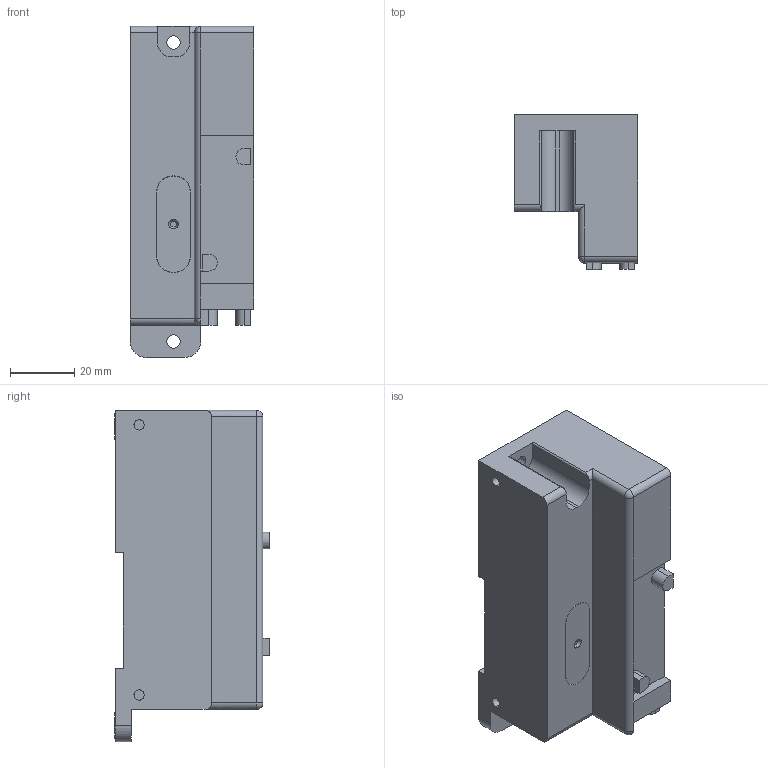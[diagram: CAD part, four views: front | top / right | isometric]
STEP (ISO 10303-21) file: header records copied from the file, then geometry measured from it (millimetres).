
FILE_DESCRIPTION( (''), '2;1');
FILE_NAME ('CVICAD02.18556.F10ZX-LK_7220.stp','2020-09-01T14:17:34',(''),(''),'spGate 12.6.6','','');
FILE_SCHEMA (('AUTOMOTIVE_DESIGN'));
Length unit declared in the file: millimetre
Products named in the file (3): Assembly; CVICAD02-prt0; Y029261_キャップ(DINねじ穴用)_20190809
Assembly tree (2 placements, depth 2):
  Assembly
    CVICAD02-prt0
    Y029261_キャップ(DINねじ穴用)_20190809
Bounding box: 38.5 x 48.1 x 103 mm (x, y, z)
Volume: 123836.9 mm3; surface area: 21151.5 mm2
Topology: 2 solids, 2 shells, 229 faces, 641 edges, 470 vertices
Faces by surface type: plane 169, cylinder 56, sphere 2, bspline 2
Entity records: 12293 total; most frequent: CARTESIAN_POINT 1538, ORIENTED_EDGE 1278, DIRECTION 1054, COLOUR_RGB 870, PRESENTATION_STYLE_ASSIGNMENT 870, STYLED_ITEM 870, EDGE_CURVE 639, DRAUGHTING_PRE_DEFINED_CURVE_FONT 639
